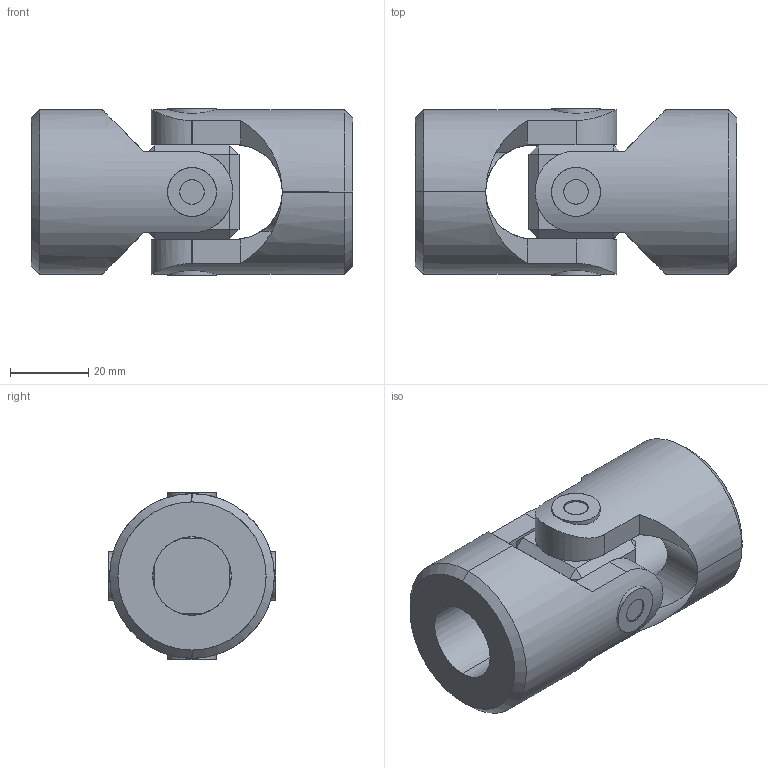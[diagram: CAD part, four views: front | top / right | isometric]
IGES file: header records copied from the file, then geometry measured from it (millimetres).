
Start section: SolidWorks IGES file using analytic representation for surfaces
Global section: file name: C:\Users\IanO\Desktop\R3690_v2\R3690_v2_20231020_IGES\R3690.020-RB.igs; native system: SolidWorks 2019; preprocessor: SolidWorks 2019; author: IanO; date: 231020.152253; units: millimetre
Bounding box: 82 x 42.84 x 42.84 mm (x, y, z)
Surface area: 26034 mm2 (no closed solid volume)
Topology: 0 solids, 0 shells, 104 faces, 2300 edges, 2300 vertices
Faces by surface type: bspline 56, revolution 48
